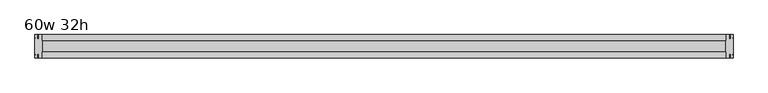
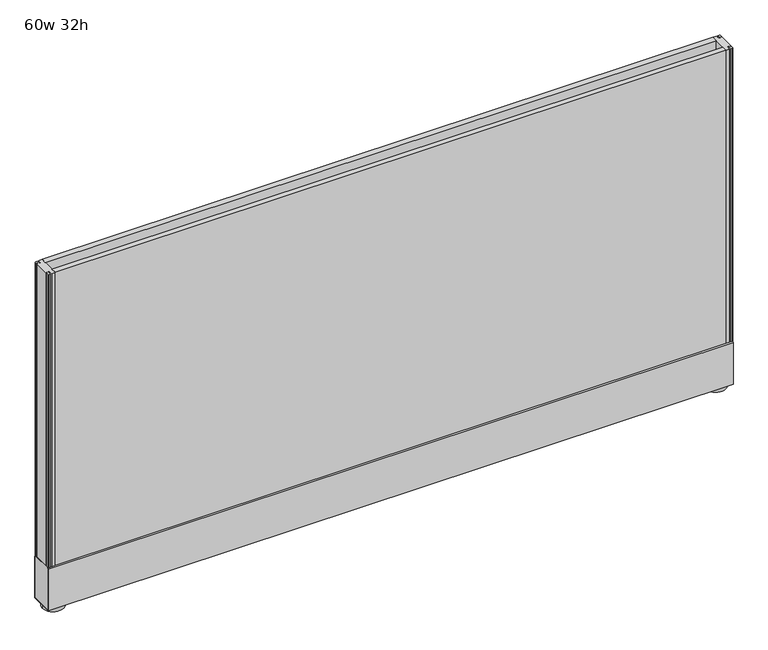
"""IFC4 building model written with IfcOpenShell, lengths in millimetres: furniture geometry, Haworth_UniGroupToo_Panel_Solid : 60w 32h."""

from ifc_helpers import new_model, si_unit, point, frame, frame_2d, origin, origin_with_axes, place, context, project, spatial, polyline, circle_curve, trimmed, segment, composite_curve, outline, extrude, source, transform, mapped, element, save


def furniture_60w_32h_e9c478c7(model_context):
    return source(origin(), model_context, "Body", "SweptSolid", [
        extrude(outline(polyline([(-743.6847098, -25.4), (-743.6847098, -12.7), (748.5652902, -12.7), (748.5652902, -25.4), (-743.6847098, -25.4)])), frame((0.0, 0.0, 111.125), z_axis=(0.0, 0.0, 1.0), x_axis=(1.0, 0.0, 0.0)), (0.0, 0.0, 1.0), 688.975),
        extrude(outline(polyline([(748.5652902, 25.4), (748.5652902, 12.7), (-743.6847098, 12.7), (-743.6847098, 25.4), (748.5652902, 25.4)])), frame((0.0, 0.0, 111.125), z_axis=(0.0, 0.0, 1.0), x_axis=(1.0, 0.0, 0.0)), (0.0, 0.0, 1.0), 688.975),
        extrude(outline(polyline([(-759.5597098, 16.5777477), (-757.8959283, 16.5777477), (-757.8959283, 19.6514836), (-759.5597098, 19.6514836), (-759.5597098, 23.7362925), (-757.8960023, 25.4), (-754.7358151, 25.4), (-754.7358151, 16.3224762), (-751.5639389, 16.3224762), (-751.5639389, 25.4), (-743.6847098, 25.4), (-743.6847098, -25.4), (-751.5639389, -25.4), (-751.5639389, -16.3224762), (-754.7358151, -16.3224762), (-754.7358151, -25.4), (-757.8960023, -25.4), (-759.5597098, -23.7362925), (-759.5597098, -19.6514836), (-757.8959283, -19.6514836), (-757.8959283, -16.5777477), (-759.5597098, -16.5777477), (-759.5597098, 16.5777477)])), frame((0.0, 0.0, 111.125), z_axis=(0.0, 0.0, 1.0), x_axis=(1.0, 0.0, 0.0)), (0.0, 0.0, 1.0), 688.975),
        extrude(outline(polyline([(764.4402902, 16.5777477), (764.4402902, -16.5777477), (762.7765086, -16.5777477), (762.7765086, -19.6514836), (764.4402902, -19.6514836), (764.4402902, -23.7362925), (762.7765827, -25.4), (759.6163954, -25.4), (759.6163954, -16.3224762), (756.4445192, -16.3224762), (756.4445192, -25.4), (748.5652902, -25.4), (748.5652902, 25.4), (756.4445192, 25.4), (756.4445192, 16.3224762), (759.6163954, 16.3224762), (759.6163954, 25.4), (762.7765827, 25.4), (764.4402902, 23.7362925), (764.4402902, 19.6514836), (762.7765086, 19.6514836), (762.7765086, 16.5777477), (764.4402902, 16.5777477)])), frame((0.0, 0.0, 111.125), z_axis=(0.0, 0.0, 1.0), x_axis=(1.0, 0.0, 0.0)), (0.0, 0.0, 1.0), 688.975),
        extrude(outline(composite_curve([segment(trimmed(circle_curve(frame_2d((-734.1597098, 0.0)), 23.8125), [point((-757.9722098, 0.0))], [point((-710.3472098, 0.0))], False, "CARTESIAN"), True, "CONTINUOUS"), segment(trimmed(circle_curve(frame_2d((-734.1597098, 0.0)), 23.8125), [point((-710.3472098, 0.0))], [point((-757.9722098, 0.0))], False, "CARTESIAN"), True, "CONTINUOUS")], self_intersect=False)), origin_with_axes(), (0.0, 0.0, 1.0), 9.525),
        extrude(outline(composite_curve([segment(trimmed(circle_curve(frame_2d((739.0402902, 0.0)), 23.8125), [point((715.2277902, 0.0))], [point((762.8527902, 0.0))], False, "CARTESIAN"), True, "CONTINUOUS"), segment(trimmed(circle_curve(frame_2d((739.0402902, 0.0)), 23.8125), [point((762.8527902, 0.0))], [point((715.2277902, 0.0))], False, "CARTESIAN"), True, "CONTINUOUS")], self_intersect=False)), origin_with_axes(), (0.0, 0.0, 1.0), 9.525),
        extrude(outline(polyline([(23.9117188, 11.0132813), (-23.9117187, 11.0132813), (-23.9117187, 107.188), (-21.463, 109.6367188), (21.463, 109.6367188), (23.9117188, 107.188), (23.9117188, 11.0132813)])), frame((762.8527902, 0.0, 0.0), z_axis=(1.0, 0.0, 0.0), x_axis=(0.0, 1.0, 0.0)), (0.0, 0.0, 1.0), 1.5875),
        extrude(outline(polyline([(23.9117188, 11.0132813), (-23.9117187, 11.0132813), (-23.9117187, 107.188), (-21.463, 109.6367188), (21.463, 109.6367188), (23.9117188, 107.188), (23.9117188, 11.0132813)])), frame((-759.5597098, 0.0, 0.0), z_axis=(1.0, 0.0, 0.0), x_axis=(0.0, 1.0, 0.0)), (0.0, 0.0, 1.0), 1.5875),
        extrude(outline(polyline([(25.4, 107.188), (25.4, 9.525), (-25.4, 9.525), (-25.4, 107.188), (-21.463, 111.125), (-21.463, 109.6367188), (-23.9117188, 107.188), (-23.9117188, 11.0132813), (23.9117188, 11.0132813), (23.9117188, 107.188), (21.463, 109.6367188), (21.463, 111.125), (25.4, 107.188)])), frame((-759.5597098, 0.0, 0.0), z_axis=(1.0, 0.0, 0.0), x_axis=(0.0, 1.0, 0.0)), (0.0, 0.0, 1.0), 1524.0),
    ])


if __name__ == "__main__":
    model = new_model("IFC4")
    model_context = context("Model", 3, world=origin())
    ifc_project = project(units=[si_unit("LENGTHUNIT", "METRE", prefix="MILLI")], contexts=[model_context])
    site = spatial("IfcSite", under=ifc_project)
    building = spatial("IfcBuilding", under=site)
    placement = place(None, origin())
    furniture_60w_32h_shape = furniture_60w_32h_e9c478c7(model_context)
    element("IfcFurniture", 1, ObjectType="Haworth_UniGroupToo_Panel_Solid : 60w 32h", at=placement, inside=building, context=model_context, shape_type="MappedRepresentation", body=[
        mapped(furniture_60w_32h_shape, transform((0.0, 0.0, 0.0), x_axis=(1.0, 0.0, 0.0), y_axis=(0.0, 1.0, 0.0), z_axis=(0.0, 0.0, 1.0))),
    ])
    save(model, "model.ifc")
